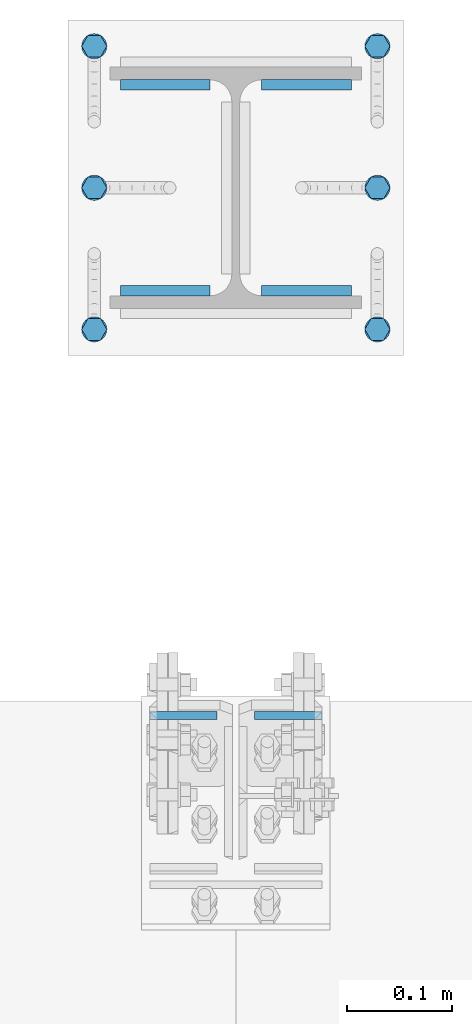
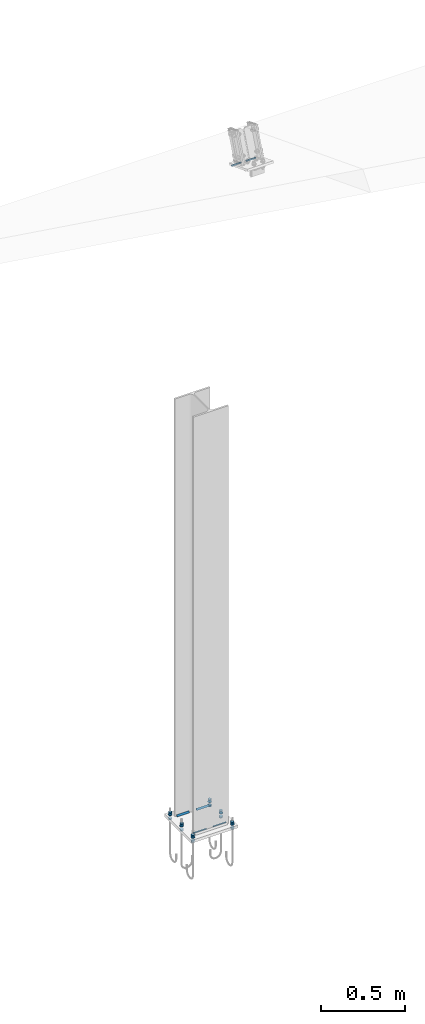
# One storey, part 66 of 72: 30 mechanical fasteners, 12 fasteners.
"""IFC4 building model written with IfcOpenShell, lengths in metres."""

from ifc_helpers import new_model, si_unit, frame, origin_with_axes, place, context, project, spatial, polyline, outline, extrude, type_object, element, save


model = new_model("IFC4")

# Units and contexts
model_context = context("Model", 3, precision=1e-05, world=origin_with_axes())
ifc_project = project(units=[si_unit("LENGTHUNIT", "METRE"), si_unit("AREAUNIT", "SQUARE_METRE"), si_unit("VOLUMEUNIT", "CUBIC_METRE"), si_unit("MASSUNIT", "GRAM", prefix="KILO"), si_unit("TIMEUNIT", "SECOND"), si_unit("PLANEANGLEUNIT", "RADIAN"), si_unit("SOLIDANGLEUNIT", "STERADIAN"), si_unit("THERMODYNAMICTEMPERATUREUNIT", "DEGREE_CELSIUS")], contexts=[model_context])

# Site, building, storey
placement_1 = place(None, origin_with_axes())
site = spatial("IfcSite", under=ifc_project, at=placement_1, Name="Italia", CompositionType="ELEMENT")
building = spatial("IfcBuilding", under=site, at=placement_1, Name="Uffici", CompositionType="ELEMENT")
storey = spatial("IfcBuildingStorey", under=building, at=placement_1, Name="Storey 0", CompositionType="ELEMENT", Elevation=0.0)

# Fasteners
fastener_type_1 = type_object("IfcFastenerType", Name="Collegamenti 0001_0101 0002_0102 0003_0103 0004_0104 0005_0105 0011_0111 0012_0112 0013_0113 0014_0114 0015_0115", PredefinedType="WELD")
placement_2 = place(placement_1, origin_with_axes())
fastener_1_placement = place(placement_2, origin_with_axes())
element("IfcFastener", 1, at=fastener_1_placement, inside=storey, type_object=fastener_type_1, Name="Collegamenti 0001_0101 0002_0102 0003_0103 0004_0104 0005_0105 0011_0111 0012_0112 0013_0113 0014_0114 0015_0115", context=model_context, shape_type="SweptSolid", body=[
    extrude(outline(polyline([(0.0, 0.0), (0.00986814, 0.0101734), (0.00986814, 0.0), (0.0, 0.0)])), frame((9.4797, 5.48318, 0.01995), z_axis=(1.0, 0.0, 0.0), x_axis=(0.0, 1.0, 0.0)), (0.0, 0.0, 1.0), 0.08535),
])
fastener_type_2 = type_object("IfcFastenerType", Name="Collegamenti 0001_0101 0002_0102 0003_0103 0004_0104 0005_0105 0011_0111 0012_0112 0013_0113 0014_0114 0015_0115", PredefinedType="WELD")
fastener_2_placement = place(placement_2, origin_with_axes())
element("IfcFastener", 2, at=fastener_2_placement, inside=storey, type_object=fastener_type_2, Name="Collegamenti 0001_0101 0002_0102 0003_0103 0004_0104 0005_0105 0011_0111 0012_0112 0013_0113 0014_0114 0015_0115", context=model_context, shape_type="SweptSolid", body=[
    extrude(outline(polyline([(0.0, 0.0), (0.00986814, 0.0101734), (0.00986814, 0.0), (0.0, 0.0)])), frame((9.56505, 5.29682, 0.01995), z_axis=(-1.0, 0.0, 0.0), x_axis=(0.0, -1.0, 0.0)), (0.0, 0.0, 1.0), 0.08535),
])
fastener_type_3 = type_object("IfcFastenerType", Name="Collegamenti 0001_0101 0002_0102 0003_0103 0004_0104 0005_0105 0011_0111 0012_0112 0013_0113 0014_0114 0015_0115", PredefinedType="WELD")
fastener_3_placement = place(placement_2, origin_with_axes())
element("IfcFastener", 3, at=fastener_3_placement, inside=storey, type_object=fastener_type_3, Name="Collegamenti 0001_0101 0002_0102 0003_0103 0004_0104 0005_0105 0011_0111 0012_0112 0013_0113 0014_0114 0015_0115", context=model_context, shape_type="SweptSolid", body=[
    extrude(outline(polyline([(0.0, 0.0), (0.00986814, 0.0101734), (0.00986814, 0.0), (0.0, 0.0)])), frame((9.4303, 5.29682, 0.01995), z_axis=(-1.0, 0.0, 0.0), x_axis=(0.0, -1.0, 0.0)), (0.0, 0.0, 1.0), 0.08535),
])
fastener_type_4 = type_object("IfcFastenerType", Name="Collegamenti 0001_0101 0002_0102 0003_0103 0004_0104 0005_0105 0011_0111 0012_0112 0013_0113 0014_0114 0015_0115", PredefinedType="WELD")
fastener_4_placement = place(placement_2, origin_with_axes())
element("IfcFastener", 4, at=fastener_4_placement, inside=storey, type_object=fastener_type_4, Name="Collegamenti 0001_0101 0002_0102 0003_0103 0004_0104 0005_0105 0011_0111 0012_0112 0013_0113 0014_0114 0015_0115", context=model_context, shape_type="SweptSolid", body=[
    extrude(outline(polyline([(0.0, 0.0), (0.00986814, 0.0101734), (0.00986814, 0.0), (0.0, 0.0)])), frame((9.34495, 5.48318, 0.01995), z_axis=(1.0, 0.0, 0.0), x_axis=(0.0, 1.0, 0.0)), (0.0, 0.0, 1.0), 0.08535),
])
fastener_type_5 = type_object("IfcFastenerType", Name="Collegamenti 0001_0101 0002_0102 0003_0103 0004_0104 0005_0105 0011_0111 0012_0112 0013_0113 0014_0114 0015_0115", PredefinedType="WELD")
fastener_5_placement = place(placement_2, origin_with_axes())
element("IfcFastener", 5, at=fastener_5_placement, inside=storey, type_object=fastener_type_5, Name="Collegamenti 0001_0101 0002_0102 0003_0103 0004_0104 0005_0105 0011_0111 0012_0112 0013_0113 0014_0114 0015_0115", context=model_context, shape_type="SweptSolid", body=[
    extrude(outline(polyline([(0.0, 0.0), (0.00986814, 0.0101734), (0.00986814, 0.0), (0.0, 0.0)])), frame((9.4797, 5.48318, 0.01995), z_axis=(1.0, 0.0, 0.0), x_axis=(0.0, 1.0, 0.0)), (0.0, 0.0, 1.0), 0.08535),
])
fastener_type_6 = type_object("IfcFastenerType", Name="Collegamenti 0001_0101 0002_0102 0003_0103 0004_0104 0005_0105 0011_0111 0012_0112 0013_0113 0014_0114 0015_0115", PredefinedType="WELD")
fastener_6_placement = place(placement_2, origin_with_axes())
element("IfcFastener", 6, at=fastener_6_placement, inside=storey, type_object=fastener_type_6, Name="Collegamenti 0001_0101 0002_0102 0003_0103 0004_0104 0005_0105 0011_0111 0012_0112 0013_0113 0014_0114 0015_0115", context=model_context, shape_type="SweptSolid", body=[
    extrude(outline(polyline([(0.0, 0.0), (0.00986814, 0.0101734), (0.00986814, 0.0), (0.0, 0.0)])), frame((9.56505, 5.29682, 0.01995), z_axis=(-1.0, 0.0, 0.0), x_axis=(0.0, -1.0, 0.0)), (0.0, 0.0, 1.0), 0.08535),
])
fastener_type_7 = type_object("IfcFastenerType", Name="Collegamenti 0001_0101 0002_0102 0003_0103 0004_0104 0005_0105 0011_0111 0012_0112 0013_0113 0014_0114 0015_0115", PredefinedType="WELD")
fastener_7_placement = place(placement_2, origin_with_axes())
element("IfcFastener", 7, at=fastener_7_placement, inside=storey, type_object=fastener_type_7, Name="Collegamenti 0001_0101 0002_0102 0003_0103 0004_0104 0005_0105 0011_0111 0012_0112 0013_0113 0014_0114 0015_0115", context=model_context, shape_type="SweptSolid", body=[
    extrude(outline(polyline([(0.0, 0.0), (0.00986814, 0.0101734), (0.00986814, 0.0), (0.0, 0.0)])), frame((9.4303, 5.29682, 0.01995), z_axis=(-1.0, 0.0, 0.0), x_axis=(0.0, -1.0, 0.0)), (0.0, 0.0, 1.0), 0.08535),
])
fastener_type_8 = type_object("IfcFastenerType", Name="Collegamenti 0001_0101 0002_0102 0003_0103 0004_0104 0005_0105 0011_0111 0012_0112 0013_0113 0014_0114 0015_0115", PredefinedType="WELD")
fastener_8_placement = place(placement_2, origin_with_axes())
element("IfcFastener", 8, at=fastener_8_placement, inside=storey, type_object=fastener_type_8, Name="Collegamenti 0001_0101 0002_0102 0003_0103 0004_0104 0005_0105 0011_0111 0012_0112 0013_0113 0014_0114 0015_0115", context=model_context, shape_type="SweptSolid", body=[
    extrude(outline(polyline([(0.0, 0.0), (0.00986814, 0.0101734), (0.00986814, 0.0), (0.0, 0.0)])), frame((9.34495, 5.48318, 0.01995), z_axis=(1.0, 0.0, 0.0), x_axis=(0.0, 1.0, 0.0)), (0.0, 0.0, 1.0), 0.08535),
])

# Mechanical fasteners
mechanical_fastener_type_1 = type_object("IfcMechanicalFastenerType", Name="Collegamenti 0001_0101 0002_0102 0003_0103 0004_0104 0005_0105 0011_0111 0012_0112 0013_0113 0014_0114 0015_0115", PredefinedType="BOLT")
mechanical_fastener_1_placement = place(placement_2, origin_with_axes())
element("IfcMechanicalFastener", 9, at=mechanical_fastener_1_placement, inside=storey, type_object=mechanical_fastener_type_1, Name="Collegamenti 0001_0101 0002_0102 0003_0103 0004_0104 0005_0105 0011_0111 0012_0112 0013_0113 0014_0114 0015_0115", NominalDiameter=0.0119997, context=model_context, shape_type="SweptSolid", body=[
    extrude(outline(polyline([(0.0, 0.0), (0.0, 0.0120001), (0.0103922, 0.0180006), (0.0207849, 0.0120001), (0.0207849, 0.0), (0.0103922, -0.00599957), (0.0, 0.0)])), frame((9.326, 5.24461, 0.022), z_axis=(0.0, 0.0, 1.0), x_axis=(0.0, 1.0, 0.0)), (0.0, 0.0, 1.0), 0.0096),
])
mechanical_fastener_type_2 = type_object("IfcMechanicalFastenerType", Name="Collegamenti 0001_0101 0002_0102 0003_0103 0004_0104 0005_0105 0011_0111 0012_0112 0013_0113 0014_0114 0015_0115", PredefinedType="BOLT")
mechanical_fastener_2_placement = place(placement_2, origin_with_axes())
element("IfcMechanicalFastener", 10, at=mechanical_fastener_2_placement, inside=storey, type_object=mechanical_fastener_type_2, Name="Collegamenti 0001_0101 0002_0102 0003_0103 0004_0104 0005_0105 0011_0111 0012_0112 0013_0113 0014_0114 0015_0115", NominalDiameter=0.0119997, context=model_context, shape_type="SweptSolid", body=[
    extrude(outline(polyline([(0.0, 0.0), (0.0, 0.0120001), (0.0103922, 0.0180006), (0.0207849, 0.0120001), (0.0207849, 0.0), (0.0103922, -0.00599957), (0.0, 0.0)])), frame((9.326, 5.24461, 0.0316), z_axis=(0.0, 0.0, 1.0), x_axis=(0.0, 1.0, 0.0)), (0.0, 0.0, 1.0), 0.0096),
])
mechanical_fastener_type_3 = type_object("IfcMechanicalFastenerType", Name="Collegamenti 0001_0101 0002_0102 0003_0103 0004_0104 0005_0105 0011_0111 0012_0112 0013_0113 0014_0114 0015_0115", PredefinedType="BOLT")
mechanical_fastener_3_placement = place(placement_2, origin_with_axes())
element("IfcMechanicalFastener", 11, at=mechanical_fastener_3_placement, inside=storey, type_object=mechanical_fastener_type_3, Name="Collegamenti 0001_0101 0002_0102 0003_0103 0004_0104 0005_0105 0011_0111 0012_0112 0013_0113 0014_0114 0015_0115", NominalDiameter=0.0119997, context=model_context, shape_type="SweptSolid", body=[
    extrude(outline(polyline([(0.0, 0.0), (0.0, 0.0120001), (0.0103922, 0.0180006), (0.0207849, 0.0120001), (0.0207849, 0.0), (0.0103922, -0.00599957), (0.0, 0.0)])), frame((9.326, 5.24461, -0.0116), z_axis=(0.0, 0.0, 1.0), x_axis=(0.0, 1.0, 0.0)), (0.0, 0.0, 1.0), 0.0096),
])
mechanical_fastener_type_4 = type_object("IfcMechanicalFastenerType", Name="Collegamenti 0001_0101 0002_0102 0003_0103 0004_0104 0005_0105 0011_0111 0012_0112 0013_0113 0014_0114 0015_0115", PredefinedType="BOLT")
mechanical_fastener_4_placement = place(placement_2, origin_with_axes())
element("IfcMechanicalFastener", 12, at=mechanical_fastener_4_placement, inside=storey, type_object=mechanical_fastener_type_4, Name="Collegamenti 0001_0101 0002_0102 0003_0103 0004_0104 0005_0105 0011_0111 0012_0112 0013_0113 0014_0114 0015_0115", NominalDiameter=0.024, context=model_context, shape_type="SweptSolid", body=[
    extrude(outline(polyline([(0.0, 0.0), (-0.000409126, -0.00310612), (-0.00160789, -0.00599957), (-0.00351477, -0.00848484), (-0.00600004, -0.0103922), (-0.00889444, -0.011591), (-0.0120001, -0.0120001), (-0.0151057, -0.011591), (-0.0180001, -0.0103922), (-0.0204854, -0.00848484), (-0.0223923, -0.00599957), (-0.023591, -0.00310612), (-0.0240002, 0.0), (-0.023591, 0.00310612), (-0.0223923, 0.00599957), (-0.0204854, 0.00848484), (-0.0180001, 0.0103922), (-0.0151057, 0.011591), (-0.0120001, 0.0120001), (-0.00889444, 0.011591), (-0.00600004, 0.0103922), (-0.00351477, 0.00848484), (-0.00160789, 0.00599957), (-0.000409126, 0.00310612), (0.0, 0.0)])), frame((9.32, 5.267, 0.02), z_axis=(0.0, 0.0, 1.0), x_axis=(0.0, 1.0, 0.0)), (0.0, 0.0, 1.0), 0.002),
])
mechanical_fastener_type_5 = type_object("IfcMechanicalFastenerType", Name="Collegamenti 0001_0101 0002_0102 0003_0103 0004_0104 0005_0105 0011_0111 0012_0112 0013_0113 0014_0114 0015_0115", PredefinedType="BOLT")
mechanical_fastener_5_placement = place(placement_2, origin_with_axes())
element("IfcMechanicalFastener", 13, at=mechanical_fastener_5_placement, inside=storey, type_object=mechanical_fastener_type_5, Name="Collegamenti 0001_0101 0002_0102 0003_0103 0004_0104 0005_0105 0011_0111 0012_0112 0013_0113 0014_0114 0015_0115", NominalDiameter=0.024, context=model_context, shape_type="SweptSolid", body=[
    extrude(outline(polyline([(0.0, 0.0), (-0.000409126, -0.00310612), (-0.00160789, -0.00599957), (-0.00351477, -0.00848484), (-0.00600004, -0.0103922), (-0.00889444, -0.011591), (-0.0120001, -0.0120001), (-0.0151057, -0.011591), (-0.0180001, -0.0103922), (-0.0204854, -0.00848484), (-0.0223923, -0.00599957), (-0.023591, -0.00310612), (-0.0240002, 0.0), (-0.023591, 0.00310612), (-0.0223923, 0.00599957), (-0.0204854, 0.00848484), (-0.0180001, 0.0103922), (-0.0151057, 0.011591), (-0.0120001, 0.0120001), (-0.00889444, 0.011591), (-0.00600004, 0.0103922), (-0.00351477, 0.00848484), (-0.00160789, 0.00599957), (-0.000409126, 0.00310612), (0.0, 0.0)])), frame((9.32, 5.267, -0.002), z_axis=(0.0, 0.0, 1.0), x_axis=(0.0, 1.0, 0.0)), (0.0, 0.0, 1.0), 0.002),
])
mechanical_fastener_type_6 = type_object("IfcMechanicalFastenerType", Name="Collegamenti 0001_0101 0002_0102 0003_0103 0004_0104 0005_0105 0011_0111 0012_0112 0013_0113 0014_0114 0015_0115", PredefinedType="BOLT")
mechanical_fastener_6_placement = place(placement_2, origin_with_axes())
element("IfcMechanicalFastener", 14, at=mechanical_fastener_6_placement, inside=storey, type_object=mechanical_fastener_type_6, Name="Collegamenti 0001_0101 0002_0102 0003_0103 0004_0104 0005_0105 0011_0111 0012_0112 0013_0113 0014_0114 0015_0115", NominalDiameter=0.0119997, context=model_context, shape_type="SweptSolid", body=[
    extrude(outline(polyline([(0.0, 0.0), (0.0, 0.0120001), (0.0103922, 0.0179996), (0.0207849, 0.0120001), (0.0207849, 0.0), (0.0103922, -0.00600052), (0.0, 0.0)])), frame((9.596, 5.24461, 0.022), z_axis=(0.0, 0.0, 1.0), x_axis=(0.0, 1.0, 0.0)), (0.0, 0.0, 1.0), 0.0096),
])
mechanical_fastener_type_7 = type_object("IfcMechanicalFastenerType", Name="Collegamenti 0001_0101 0002_0102 0003_0103 0004_0104 0005_0105 0011_0111 0012_0112 0013_0113 0014_0114 0015_0115", PredefinedType="BOLT")
mechanical_fastener_7_placement = place(placement_2, origin_with_axes())
element("IfcMechanicalFastener", 15, at=mechanical_fastener_7_placement, inside=storey, type_object=mechanical_fastener_type_7, Name="Collegamenti 0001_0101 0002_0102 0003_0103 0004_0104 0005_0105 0011_0111 0012_0112 0013_0113 0014_0114 0015_0115", NominalDiameter=0.0119997, context=model_context, shape_type="SweptSolid", body=[
    extrude(outline(polyline([(0.0, 0.0), (0.0, 0.0120001), (0.0103922, 0.0179996), (0.0207849, 0.0120001), (0.0207849, 0.0), (0.0103922, -0.00600052), (0.0, 0.0)])), frame((9.596, 5.24461, 0.0316), z_axis=(0.0, 0.0, 1.0), x_axis=(0.0, 1.0, 0.0)), (0.0, 0.0, 1.0), 0.0096),
])
mechanical_fastener_type_8 = type_object("IfcMechanicalFastenerType", Name="Collegamenti 0001_0101 0002_0102 0003_0103 0004_0104 0005_0105 0011_0111 0012_0112 0013_0113 0014_0114 0015_0115", PredefinedType="BOLT")
mechanical_fastener_8_placement = place(placement_2, origin_with_axes())
element("IfcMechanicalFastener", 16, at=mechanical_fastener_8_placement, inside=storey, type_object=mechanical_fastener_type_8, Name="Collegamenti 0001_0101 0002_0102 0003_0103 0004_0104 0005_0105 0011_0111 0012_0112 0013_0113 0014_0114 0015_0115", NominalDiameter=0.0119997, context=model_context, shape_type="SweptSolid", body=[
    extrude(outline(polyline([(0.0, 0.0), (0.0, 0.0120001), (0.0103922, 0.0179996), (0.0207849, 0.0120001), (0.0207849, 0.0), (0.0103922, -0.00600052), (0.0, 0.0)])), frame((9.596, 5.24461, -0.0116), z_axis=(0.0, 0.0, 1.0), x_axis=(0.0, 1.0, 0.0)), (0.0, 0.0, 1.0), 0.0096),
])
mechanical_fastener_type_9 = type_object("IfcMechanicalFastenerType", Name="Collegamenti 0001_0101 0002_0102 0003_0103 0004_0104 0005_0105 0011_0111 0012_0112 0013_0113 0014_0114 0015_0115", PredefinedType="BOLT")
mechanical_fastener_9_placement = place(placement_2, origin_with_axes())
element("IfcMechanicalFastener", 17, at=mechanical_fastener_9_placement, inside=storey, type_object=mechanical_fastener_type_9, Name="Collegamenti 0001_0101 0002_0102 0003_0103 0004_0104 0005_0105 0011_0111 0012_0112 0013_0113 0014_0114 0015_0115", NominalDiameter=0.024, context=model_context, shape_type="SweptSolid", body=[
    extrude(outline(polyline([(0.0, 0.0), (-0.000409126, -0.00310612), (-0.00160789, -0.00599957), (-0.00351477, -0.00848484), (-0.00600004, -0.0103922), (-0.00889444, -0.011591), (-0.0120001, -0.0120001), (-0.0151057, -0.011591), (-0.0180001, -0.0103922), (-0.0204854, -0.00848484), (-0.0223923, -0.00599957), (-0.023591, -0.00310612), (-0.0240002, 0.0), (-0.023591, 0.00310612), (-0.0223923, 0.00599957), (-0.0204854, 0.00848484), (-0.0180001, 0.0103922), (-0.0151057, 0.011591), (-0.0120001, 0.0120001), (-0.00889444, 0.011591), (-0.00600004, 0.0103922), (-0.00351477, 0.00848484), (-0.00160789, 0.00599957), (-0.000409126, 0.00310612), (0.0, 0.0)])), frame((9.59, 5.267, 0.02), z_axis=(0.0, 0.0, 1.0), x_axis=(0.0, 1.0, 0.0)), (0.0, 0.0, 1.0), 0.002),
])
mechanical_fastener_type_10 = type_object("IfcMechanicalFastenerType", Name="Collegamenti 0001_0101 0002_0102 0003_0103 0004_0104 0005_0105 0011_0111 0012_0112 0013_0113 0014_0114 0015_0115", PredefinedType="BOLT")
mechanical_fastener_10_placement = place(placement_2, origin_with_axes())
element("IfcMechanicalFastener", 18, at=mechanical_fastener_10_placement, inside=storey, type_object=mechanical_fastener_type_10, Name="Collegamenti 0001_0101 0002_0102 0003_0103 0004_0104 0005_0105 0011_0111 0012_0112 0013_0113 0014_0114 0015_0115", NominalDiameter=0.024, context=model_context, shape_type="SweptSolid", body=[
    extrude(outline(polyline([(0.0, 0.0), (-0.000409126, -0.00310612), (-0.00160789, -0.00599957), (-0.00351477, -0.00848484), (-0.00600004, -0.0103922), (-0.00889444, -0.011591), (-0.0120001, -0.0120001), (-0.0151057, -0.011591), (-0.0180001, -0.0103922), (-0.0204854, -0.00848484), (-0.0223923, -0.00599957), (-0.023591, -0.00310612), (-0.0240002, 0.0), (-0.023591, 0.00310612), (-0.0223923, 0.00599957), (-0.0204854, 0.00848484), (-0.0180001, 0.0103922), (-0.0151057, 0.011591), (-0.0120001, 0.0120001), (-0.00889444, 0.011591), (-0.00600004, 0.0103922), (-0.00351477, 0.00848484), (-0.00160789, 0.00599957), (-0.000409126, 0.00310612), (0.0, 0.0)])), frame((9.59, 5.267, -0.002), z_axis=(0.0, 0.0, 1.0), x_axis=(0.0, 1.0, 0.0)), (0.0, 0.0, 1.0), 0.002),
])
mechanical_fastener_type_11 = type_object("IfcMechanicalFastenerType", Name="Collegamenti 0001_0101 0002_0102 0003_0103 0004_0104 0005_0105 0011_0111 0012_0112 0013_0113 0014_0114 0015_0115", PredefinedType="BOLT")
mechanical_fastener_11_placement = place(placement_2, origin_with_axes())
element("IfcMechanicalFastener", 19, at=mechanical_fastener_11_placement, inside=storey, type_object=mechanical_fastener_type_11, Name="Collegamenti 0001_0101 0002_0102 0003_0103 0004_0104 0005_0105 0011_0111 0012_0112 0013_0113 0014_0114 0015_0115", NominalDiameter=0.0119997, context=model_context, shape_type="SweptSolid", body=[
    extrude(outline(polyline([(0.0, 0.0), (0.0, 0.0120001), (0.0103922, 0.0180006), (0.0207844, 0.0120001), (0.0207844, 0.0), (0.0103922, -0.00599957), (0.0, 0.0)])), frame((9.326, 5.37961, 0.022), z_axis=(0.0, 0.0, 1.0), x_axis=(0.0, 1.0, 0.0)), (0.0, 0.0, 1.0), 0.0096),
])
mechanical_fastener_type_12 = type_object("IfcMechanicalFastenerType", Name="Collegamenti 0001_0101 0002_0102 0003_0103 0004_0104 0005_0105 0011_0111 0012_0112 0013_0113 0014_0114 0015_0115", PredefinedType="BOLT")
mechanical_fastener_12_placement = place(placement_2, origin_with_axes())
element("IfcMechanicalFastener", 20, at=mechanical_fastener_12_placement, inside=storey, type_object=mechanical_fastener_type_12, Name="Collegamenti 0001_0101 0002_0102 0003_0103 0004_0104 0005_0105 0011_0111 0012_0112 0013_0113 0014_0114 0015_0115", NominalDiameter=0.0119997, context=model_context, shape_type="SweptSolid", body=[
    extrude(outline(polyline([(0.0, 0.0), (0.0, 0.0120001), (0.0103922, 0.0180006), (0.0207844, 0.0120001), (0.0207844, 0.0), (0.0103922, -0.00599957), (0.0, 0.0)])), frame((9.326, 5.37961, 0.0316), z_axis=(0.0, 0.0, 1.0), x_axis=(0.0, 1.0, 0.0)), (0.0, 0.0, 1.0), 0.0096),
])
mechanical_fastener_type_13 = type_object("IfcMechanicalFastenerType", Name="Collegamenti 0001_0101 0002_0102 0003_0103 0004_0104 0005_0105 0011_0111 0012_0112 0013_0113 0014_0114 0015_0115", PredefinedType="BOLT")
mechanical_fastener_13_placement = place(placement_2, origin_with_axes())
element("IfcMechanicalFastener", 21, at=mechanical_fastener_13_placement, inside=storey, type_object=mechanical_fastener_type_13, Name="Collegamenti 0001_0101 0002_0102 0003_0103 0004_0104 0005_0105 0011_0111 0012_0112 0013_0113 0014_0114 0015_0115", NominalDiameter=0.0119997, context=model_context, shape_type="SweptSolid", body=[
    extrude(outline(polyline([(0.0, 0.0), (0.0, 0.0120001), (0.0103922, 0.0180006), (0.0207844, 0.0120001), (0.0207844, 0.0), (0.0103922, -0.00599957), (0.0, 0.0)])), frame((9.326, 5.37961, -0.0116), z_axis=(0.0, 0.0, 1.0), x_axis=(0.0, 1.0, 0.0)), (0.0, 0.0, 1.0), 0.0096),
])
mechanical_fastener_type_14 = type_object("IfcMechanicalFastenerType", Name="Collegamenti 0001_0101 0002_0102 0003_0103 0004_0104 0005_0105 0011_0111 0012_0112 0013_0113 0014_0114 0015_0115", PredefinedType="BOLT")
mechanical_fastener_14_placement = place(placement_2, origin_with_axes())
element("IfcMechanicalFastener", 22, at=mechanical_fastener_14_placement, inside=storey, type_object=mechanical_fastener_type_14, Name="Collegamenti 0001_0101 0002_0102 0003_0103 0004_0104 0005_0105 0011_0111 0012_0112 0013_0113 0014_0114 0015_0115", NominalDiameter=0.024, context=model_context, shape_type="SweptSolid", body=[
    extrude(outline(polyline([(0.0, 0.0), (-0.000409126, -0.00310612), (-0.00160789, -0.00599957), (-0.00351477, -0.00848484), (-0.00600004, -0.0103922), (-0.00889444, -0.011591), (-0.0120001, -0.0120001), (-0.0151057, -0.011591), (-0.0180001, -0.0103922), (-0.0204854, -0.00848484), (-0.0223923, -0.00599957), (-0.023591, -0.00310612), (-0.0240002, 0.0), (-0.023591, 0.00310612), (-0.0223923, 0.00599957), (-0.0204854, 0.00848484), (-0.0180001, 0.0103922), (-0.0151057, 0.011591), (-0.0120001, 0.0120001), (-0.00889444, 0.011591), (-0.00600004, 0.0103922), (-0.00351477, 0.00848484), (-0.00160789, 0.00599957), (-0.000409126, 0.00310612), (0.0, 0.0)])), frame((9.32, 5.402, 0.02), z_axis=(0.0, 0.0, 1.0), x_axis=(0.0, 1.0, 0.0)), (0.0, 0.0, 1.0), 0.002),
])
mechanical_fastener_type_15 = type_object("IfcMechanicalFastenerType", Name="Collegamenti 0001_0101 0002_0102 0003_0103 0004_0104 0005_0105 0011_0111 0012_0112 0013_0113 0014_0114 0015_0115", PredefinedType="BOLT")
mechanical_fastener_15_placement = place(placement_2, origin_with_axes())
element("IfcMechanicalFastener", 23, at=mechanical_fastener_15_placement, inside=storey, type_object=mechanical_fastener_type_15, Name="Collegamenti 0001_0101 0002_0102 0003_0103 0004_0104 0005_0105 0011_0111 0012_0112 0013_0113 0014_0114 0015_0115", NominalDiameter=0.024, context=model_context, shape_type="SweptSolid", body=[
    extrude(outline(polyline([(0.0, 0.0), (-0.000409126, -0.00310612), (-0.00160789, -0.00599957), (-0.00351477, -0.00848484), (-0.00600004, -0.0103922), (-0.00889444, -0.011591), (-0.0120001, -0.0120001), (-0.0151057, -0.011591), (-0.0180001, -0.0103922), (-0.0204854, -0.00848484), (-0.0223923, -0.00599957), (-0.023591, -0.00310612), (-0.0240002, 0.0), (-0.023591, 0.00310612), (-0.0223923, 0.00599957), (-0.0204854, 0.00848484), (-0.0180001, 0.0103922), (-0.0151057, 0.011591), (-0.0120001, 0.0120001), (-0.00889444, 0.011591), (-0.00600004, 0.0103922), (-0.00351477, 0.00848484), (-0.00160789, 0.00599957), (-0.000409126, 0.00310612), (0.0, 0.0)])), frame((9.32, 5.402, -0.002), z_axis=(0.0, 0.0, 1.0), x_axis=(0.0, 1.0, 0.0)), (0.0, 0.0, 1.0), 0.002),
])
mechanical_fastener_type_16 = type_object("IfcMechanicalFastenerType", Name="Collegamenti 0001_0101 0002_0102 0003_0103 0004_0104 0005_0105 0011_0111 0012_0112 0013_0113 0014_0114 0015_0115", PredefinedType="BOLT")
mechanical_fastener_16_placement = place(placement_2, origin_with_axes())
element("IfcMechanicalFastener", 24, at=mechanical_fastener_16_placement, inside=storey, type_object=mechanical_fastener_type_16, Name="Collegamenti 0001_0101 0002_0102 0003_0103 0004_0104 0005_0105 0011_0111 0012_0112 0013_0113 0014_0114 0015_0115", NominalDiameter=0.0119997, context=model_context, shape_type="SweptSolid", body=[
    extrude(outline(polyline([(0.0, 0.0), (0.0, 0.0120001), (0.0103922, 0.0179996), (0.0207844, 0.0120001), (0.0207844, 0.0), (0.0103922, -0.00600052), (0.0, 0.0)])), frame((9.596, 5.37961, 0.022), z_axis=(0.0, 0.0, 1.0), x_axis=(0.0, 1.0, 0.0)), (0.0, 0.0, 1.0), 0.0096),
])
mechanical_fastener_type_17 = type_object("IfcMechanicalFastenerType", Name="Collegamenti 0001_0101 0002_0102 0003_0103 0004_0104 0005_0105 0011_0111 0012_0112 0013_0113 0014_0114 0015_0115", PredefinedType="BOLT")
mechanical_fastener_17_placement = place(placement_2, origin_with_axes())
element("IfcMechanicalFastener", 25, at=mechanical_fastener_17_placement, inside=storey, type_object=mechanical_fastener_type_17, Name="Collegamenti 0001_0101 0002_0102 0003_0103 0004_0104 0005_0105 0011_0111 0012_0112 0013_0113 0014_0114 0015_0115", NominalDiameter=0.0119997, context=model_context, shape_type="SweptSolid", body=[
    extrude(outline(polyline([(0.0, 0.0), (0.0, 0.0120001), (0.0103922, 0.0179996), (0.0207844, 0.0120001), (0.0207844, 0.0), (0.0103922, -0.00600052), (0.0, 0.0)])), frame((9.596, 5.37961, 0.0316), z_axis=(0.0, 0.0, 1.0), x_axis=(0.0, 1.0, 0.0)), (0.0, 0.0, 1.0), 0.0096),
])
mechanical_fastener_type_18 = type_object("IfcMechanicalFastenerType", Name="Collegamenti 0001_0101 0002_0102 0003_0103 0004_0104 0005_0105 0011_0111 0012_0112 0013_0113 0014_0114 0015_0115", PredefinedType="BOLT")
mechanical_fastener_18_placement = place(placement_2, origin_with_axes())
element("IfcMechanicalFastener", 26, at=mechanical_fastener_18_placement, inside=storey, type_object=mechanical_fastener_type_18, Name="Collegamenti 0001_0101 0002_0102 0003_0103 0004_0104 0005_0105 0011_0111 0012_0112 0013_0113 0014_0114 0015_0115", NominalDiameter=0.0119997, context=model_context, shape_type="SweptSolid", body=[
    extrude(outline(polyline([(0.0, 0.0), (0.0, 0.0120001), (0.0103922, 0.0179996), (0.0207844, 0.0120001), (0.0207844, 0.0), (0.0103922, -0.00600052), (0.0, 0.0)])), frame((9.596, 5.37961, -0.0116), z_axis=(0.0, 0.0, 1.0), x_axis=(0.0, 1.0, 0.0)), (0.0, 0.0, 1.0), 0.0096),
])
mechanical_fastener_type_19 = type_object("IfcMechanicalFastenerType", Name="Collegamenti 0001_0101 0002_0102 0003_0103 0004_0104 0005_0105 0011_0111 0012_0112 0013_0113 0014_0114 0015_0115", PredefinedType="BOLT")
mechanical_fastener_19_placement = place(placement_2, origin_with_axes())
element("IfcMechanicalFastener", 27, at=mechanical_fastener_19_placement, inside=storey, type_object=mechanical_fastener_type_19, Name="Collegamenti 0001_0101 0002_0102 0003_0103 0004_0104 0005_0105 0011_0111 0012_0112 0013_0113 0014_0114 0015_0115", NominalDiameter=0.024, context=model_context, shape_type="SweptSolid", body=[
    extrude(outline(polyline([(0.0, 0.0), (-0.000409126, -0.00310612), (-0.00160789, -0.00599957), (-0.00351477, -0.00848484), (-0.00600004, -0.0103922), (-0.00889444, -0.011591), (-0.0120001, -0.0120001), (-0.0151057, -0.011591), (-0.0180001, -0.0103922), (-0.0204854, -0.00848484), (-0.0223923, -0.00599957), (-0.023591, -0.00310612), (-0.0240002, 0.0), (-0.023591, 0.00310612), (-0.0223923, 0.00599957), (-0.0204854, 0.00848484), (-0.0180001, 0.0103922), (-0.0151057, 0.011591), (-0.0120001, 0.0120001), (-0.00889444, 0.011591), (-0.00600004, 0.0103922), (-0.00351477, 0.00848484), (-0.00160789, 0.00599957), (-0.000409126, 0.00310612), (0.0, 0.0)])), frame((9.59, 5.402, 0.02), z_axis=(0.0, 0.0, 1.0), x_axis=(0.0, 1.0, 0.0)), (0.0, 0.0, 1.0), 0.002),
])
mechanical_fastener_type_20 = type_object("IfcMechanicalFastenerType", Name="Collegamenti 0001_0101 0002_0102 0003_0103 0004_0104 0005_0105 0011_0111 0012_0112 0013_0113 0014_0114 0015_0115", PredefinedType="BOLT")
mechanical_fastener_20_placement = place(placement_2, origin_with_axes())
element("IfcMechanicalFastener", 28, at=mechanical_fastener_20_placement, inside=storey, type_object=mechanical_fastener_type_20, Name="Collegamenti 0001_0101 0002_0102 0003_0103 0004_0104 0005_0105 0011_0111 0012_0112 0013_0113 0014_0114 0015_0115", NominalDiameter=0.024, context=model_context, shape_type="SweptSolid", body=[
    extrude(outline(polyline([(0.0, 0.0), (-0.000409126, -0.00310612), (-0.00160789, -0.00599957), (-0.00351477, -0.00848484), (-0.00600004, -0.0103922), (-0.00889444, -0.011591), (-0.0120001, -0.0120001), (-0.0151057, -0.011591), (-0.0180001, -0.0103922), (-0.0204854, -0.00848484), (-0.0223923, -0.00599957), (-0.023591, -0.00310612), (-0.0240002, 0.0), (-0.023591, 0.00310612), (-0.0223923, 0.00599957), (-0.0204854, 0.00848484), (-0.0180001, 0.0103922), (-0.0151057, 0.011591), (-0.0120001, 0.0120001), (-0.00889444, 0.011591), (-0.00600004, 0.0103922), (-0.00351477, 0.00848484), (-0.00160789, 0.00599957), (-0.000409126, 0.00310612), (0.0, 0.0)])), frame((9.59, 5.402, -0.002), z_axis=(0.0, 0.0, 1.0), x_axis=(0.0, 1.0, 0.0)), (0.0, 0.0, 1.0), 0.002),
])
mechanical_fastener_type_21 = type_object("IfcMechanicalFastenerType", Name="Collegamenti 0001_0101 0002_0102 0003_0103 0004_0104 0005_0105 0011_0111 0012_0112 0013_0113 0014_0114 0015_0115", PredefinedType="BOLT")
mechanical_fastener_21_placement = place(placement_2, origin_with_axes())
element("IfcMechanicalFastener", 29, at=mechanical_fastener_21_placement, inside=storey, type_object=mechanical_fastener_type_21, Name="Collegamenti 0001_0101 0002_0102 0003_0103 0004_0104 0005_0105 0011_0111 0012_0112 0013_0113 0014_0114 0015_0115", NominalDiameter=0.0119997, context=model_context, shape_type="SweptSolid", body=[
    extrude(outline(polyline([(0.0, 0.0), (0.0, 0.0120001), (0.0103927, 0.0180006), (0.0207849, 0.0120001), (0.0207849, 0.0), (0.0103927, -0.00599957), (0.0, 0.0)])), frame((9.326, 5.51461, 0.022), z_axis=(0.0, 0.0, 1.0), x_axis=(0.0, 1.0, 0.0)), (0.0, 0.0, 1.0), 0.0096),
])
mechanical_fastener_type_22 = type_object("IfcMechanicalFastenerType", Name="Collegamenti 0001_0101 0002_0102 0003_0103 0004_0104 0005_0105 0011_0111 0012_0112 0013_0113 0014_0114 0015_0115", PredefinedType="BOLT")
mechanical_fastener_22_placement = place(placement_2, origin_with_axes())
element("IfcMechanicalFastener", 30, at=mechanical_fastener_22_placement, inside=storey, type_object=mechanical_fastener_type_22, Name="Collegamenti 0001_0101 0002_0102 0003_0103 0004_0104 0005_0105 0011_0111 0012_0112 0013_0113 0014_0114 0015_0115", NominalDiameter=0.0119997, context=model_context, shape_type="SweptSolid", body=[
    extrude(outline(polyline([(0.0, 0.0), (0.0, 0.0120001), (0.0103927, 0.0180006), (0.0207849, 0.0120001), (0.0207849, 0.0), (0.0103927, -0.00599957), (0.0, 0.0)])), frame((9.326, 5.51461, 0.0316), z_axis=(0.0, 0.0, 1.0), x_axis=(0.0, 1.0, 0.0)), (0.0, 0.0, 1.0), 0.0096),
])
mechanical_fastener_type_23 = type_object("IfcMechanicalFastenerType", Name="Collegamenti 0001_0101 0002_0102 0003_0103 0004_0104 0005_0105 0011_0111 0012_0112 0013_0113 0014_0114 0015_0115", PredefinedType="BOLT")
mechanical_fastener_23_placement = place(placement_2, origin_with_axes())
element("IfcMechanicalFastener", 31, at=mechanical_fastener_23_placement, inside=storey, type_object=mechanical_fastener_type_23, Name="Collegamenti 0001_0101 0002_0102 0003_0103 0004_0104 0005_0105 0011_0111 0012_0112 0013_0113 0014_0114 0015_0115", NominalDiameter=0.0119997, context=model_context, shape_type="SweptSolid", body=[
    extrude(outline(polyline([(0.0, 0.0), (0.0, 0.0120001), (0.0103927, 0.0180006), (0.0207849, 0.0120001), (0.0207849, 0.0), (0.0103927, -0.00599957), (0.0, 0.0)])), frame((9.326, 5.51461, -0.0116), z_axis=(0.0, 0.0, 1.0), x_axis=(0.0, 1.0, 0.0)), (0.0, 0.0, 1.0), 0.0096),
])
mechanical_fastener_type_24 = type_object("IfcMechanicalFastenerType", Name="Collegamenti 0001_0101 0002_0102 0003_0103 0004_0104 0005_0105 0011_0111 0012_0112 0013_0113 0014_0114 0015_0115", PredefinedType="BOLT")
mechanical_fastener_24_placement = place(placement_2, origin_with_axes())
element("IfcMechanicalFastener", 32, at=mechanical_fastener_24_placement, inside=storey, type_object=mechanical_fastener_type_24, Name="Collegamenti 0001_0101 0002_0102 0003_0103 0004_0104 0005_0105 0011_0111 0012_0112 0013_0113 0014_0114 0015_0115", NominalDiameter=0.024, context=model_context, shape_type="SweptSolid", body=[
    extrude(outline(polyline([(0.0, 0.0), (-0.000409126, -0.00310612), (-0.00160789, -0.00599957), (-0.00351477, -0.00848484), (-0.00600004, -0.0103922), (-0.00889444, -0.011591), (-0.0120001, -0.0120001), (-0.0151057, -0.011591), (-0.0180001, -0.0103922), (-0.0204854, -0.00848484), (-0.0223923, -0.00599957), (-0.023591, -0.00310612), (-0.0240002, 0.0), (-0.023591, 0.00310612), (-0.0223923, 0.00599957), (-0.0204854, 0.00848484), (-0.0180001, 0.0103922), (-0.0151057, 0.011591), (-0.0120001, 0.0120001), (-0.00889444, 0.011591), (-0.00600004, 0.0103922), (-0.00351477, 0.00848484), (-0.00160789, 0.00599957), (-0.000409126, 0.00310612), (0.0, 0.0)])), frame((9.32, 5.537, 0.02), z_axis=(0.0, 0.0, 1.0), x_axis=(0.0, 1.0, 0.0)), (0.0, 0.0, 1.0), 0.002),
])
mechanical_fastener_type_25 = type_object("IfcMechanicalFastenerType", Name="Collegamenti 0001_0101 0002_0102 0003_0103 0004_0104 0005_0105 0011_0111 0012_0112 0013_0113 0014_0114 0015_0115", PredefinedType="BOLT")
mechanical_fastener_25_placement = place(placement_2, origin_with_axes())
element("IfcMechanicalFastener", 33, at=mechanical_fastener_25_placement, inside=storey, type_object=mechanical_fastener_type_25, Name="Collegamenti 0001_0101 0002_0102 0003_0103 0004_0104 0005_0105 0011_0111 0012_0112 0013_0113 0014_0114 0015_0115", NominalDiameter=0.024, context=model_context, shape_type="SweptSolid", body=[
    extrude(outline(polyline([(0.0, 0.0), (-0.000409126, -0.00310612), (-0.00160789, -0.00599957), (-0.00351477, -0.00848484), (-0.00600004, -0.0103922), (-0.00889444, -0.011591), (-0.0120001, -0.0120001), (-0.0151057, -0.011591), (-0.0180001, -0.0103922), (-0.0204854, -0.00848484), (-0.0223923, -0.00599957), (-0.023591, -0.00310612), (-0.0240002, 0.0), (-0.023591, 0.00310612), (-0.0223923, 0.00599957), (-0.0204854, 0.00848484), (-0.0180001, 0.0103922), (-0.0151057, 0.011591), (-0.0120001, 0.0120001), (-0.00889444, 0.011591), (-0.00600004, 0.0103922), (-0.00351477, 0.00848484), (-0.00160789, 0.00599957), (-0.000409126, 0.00310612), (0.0, 0.0)])), frame((9.32, 5.537, -0.002), z_axis=(0.0, 0.0, 1.0), x_axis=(0.0, 1.0, 0.0)), (0.0, 0.0, 1.0), 0.002),
])
mechanical_fastener_type_26 = type_object("IfcMechanicalFastenerType", Name="Collegamenti 0001_0101 0002_0102 0003_0103 0004_0104 0005_0105 0011_0111 0012_0112 0013_0113 0014_0114 0015_0115", PredefinedType="BOLT")
mechanical_fastener_26_placement = place(placement_2, origin_with_axes())
element("IfcMechanicalFastener", 34, at=mechanical_fastener_26_placement, inside=storey, type_object=mechanical_fastener_type_26, Name="Collegamenti 0001_0101 0002_0102 0003_0103 0004_0104 0005_0105 0011_0111 0012_0112 0013_0113 0014_0114 0015_0115", NominalDiameter=0.0119997, context=model_context, shape_type="SweptSolid", body=[
    extrude(outline(polyline([(0.0, 0.0), (0.0, 0.0120001), (0.0103927, 0.0179996), (0.0207849, 0.0120001), (0.0207849, 0.0), (0.0103927, -0.00600052), (0.0, 0.0)])), frame((9.596, 5.51461, 0.022), z_axis=(0.0, 0.0, 1.0), x_axis=(0.0, 1.0, 0.0)), (0.0, 0.0, 1.0), 0.0096),
])
mechanical_fastener_type_27 = type_object("IfcMechanicalFastenerType", Name="Collegamenti 0001_0101 0002_0102 0003_0103 0004_0104 0005_0105 0011_0111 0012_0112 0013_0113 0014_0114 0015_0115", PredefinedType="BOLT")
mechanical_fastener_27_placement = place(placement_2, origin_with_axes())
element("IfcMechanicalFastener", 35, at=mechanical_fastener_27_placement, inside=storey, type_object=mechanical_fastener_type_27, Name="Collegamenti 0001_0101 0002_0102 0003_0103 0004_0104 0005_0105 0011_0111 0012_0112 0013_0113 0014_0114 0015_0115", NominalDiameter=0.0119997, context=model_context, shape_type="SweptSolid", body=[
    extrude(outline(polyline([(0.0, 0.0), (0.0, 0.0120001), (0.0103927, 0.0179996), (0.0207849, 0.0120001), (0.0207849, 0.0), (0.0103927, -0.00600052), (0.0, 0.0)])), frame((9.596, 5.51461, 0.0316), z_axis=(0.0, 0.0, 1.0), x_axis=(0.0, 1.0, 0.0)), (0.0, 0.0, 1.0), 0.0096),
])
mechanical_fastener_type_28 = type_object("IfcMechanicalFastenerType", Name="Collegamenti 0001_0101 0002_0102 0003_0103 0004_0104 0005_0105 0011_0111 0012_0112 0013_0113 0014_0114 0015_0115", PredefinedType="BOLT")
mechanical_fastener_28_placement = place(placement_2, origin_with_axes())
element("IfcMechanicalFastener", 36, at=mechanical_fastener_28_placement, inside=storey, type_object=mechanical_fastener_type_28, Name="Collegamenti 0001_0101 0002_0102 0003_0103 0004_0104 0005_0105 0011_0111 0012_0112 0013_0113 0014_0114 0015_0115", NominalDiameter=0.0119997, context=model_context, shape_type="SweptSolid", body=[
    extrude(outline(polyline([(0.0, 0.0), (0.0, 0.0120001), (0.0103927, 0.0179996), (0.0207849, 0.0120001), (0.0207849, 0.0), (0.0103927, -0.00600052), (0.0, 0.0)])), frame((9.596, 5.51461, -0.0116), z_axis=(0.0, 0.0, 1.0), x_axis=(0.0, 1.0, 0.0)), (0.0, 0.0, 1.0), 0.0096),
])
mechanical_fastener_type_29 = type_object("IfcMechanicalFastenerType", Name="Collegamenti 0001_0101 0002_0102 0003_0103 0004_0104 0005_0105 0011_0111 0012_0112 0013_0113 0014_0114 0015_0115", PredefinedType="BOLT")
mechanical_fastener_29_placement = place(placement_2, origin_with_axes())
element("IfcMechanicalFastener", 37, at=mechanical_fastener_29_placement, inside=storey, type_object=mechanical_fastener_type_29, Name="Collegamenti 0001_0101 0002_0102 0003_0103 0004_0104 0005_0105 0011_0111 0012_0112 0013_0113 0014_0114 0015_0115", NominalDiameter=0.024, context=model_context, shape_type="SweptSolid", body=[
    extrude(outline(polyline([(0.0, 0.0), (-0.000409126, -0.00310612), (-0.00160789, -0.00599957), (-0.00351477, -0.00848484), (-0.00600004, -0.0103922), (-0.00889444, -0.011591), (-0.0120001, -0.0120001), (-0.0151057, -0.011591), (-0.0180001, -0.0103922), (-0.0204854, -0.00848484), (-0.0223923, -0.00599957), (-0.023591, -0.00310612), (-0.0240002, 0.0), (-0.023591, 0.00310612), (-0.0223923, 0.00599957), (-0.0204854, 0.00848484), (-0.0180001, 0.0103922), (-0.0151057, 0.011591), (-0.0120001, 0.0120001), (-0.00889444, 0.011591), (-0.00600004, 0.0103922), (-0.00351477, 0.00848484), (-0.00160789, 0.00599957), (-0.000409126, 0.00310612), (0.0, 0.0)])), frame((9.59, 5.537, 0.02), z_axis=(0.0, 0.0, 1.0), x_axis=(0.0, 1.0, 0.0)), (0.0, 0.0, 1.0), 0.002),
])
mechanical_fastener_type_30 = type_object("IfcMechanicalFastenerType", Name="Collegamenti 0001_0101 0002_0102 0003_0103 0004_0104 0005_0105 0011_0111 0012_0112 0013_0113 0014_0114 0015_0115", PredefinedType="BOLT")
mechanical_fastener_30_placement = place(placement_2, origin_with_axes())
element("IfcMechanicalFastener", 38, at=mechanical_fastener_30_placement, inside=storey, type_object=mechanical_fastener_type_30, Name="Collegamenti 0001_0101 0002_0102 0003_0103 0004_0104 0005_0105 0011_0111 0012_0112 0013_0113 0014_0114 0015_0115", NominalDiameter=0.024, context=model_context, shape_type="SweptSolid", body=[
    extrude(outline(polyline([(0.0, 0.0), (-0.000409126, -0.00310612), (-0.00160789, -0.00599957), (-0.00351477, -0.00848484), (-0.00600004, -0.0103922), (-0.00889444, -0.011591), (-0.0120001, -0.0120001), (-0.0151057, -0.011591), (-0.0180001, -0.0103922), (-0.0204854, -0.00848484), (-0.0223923, -0.00599957), (-0.023591, -0.00310612), (-0.0240002, 0.0), (-0.023591, 0.00310612), (-0.0223923, 0.00599957), (-0.0204854, 0.00848484), (-0.0180001, 0.0103922), (-0.0151057, 0.011591), (-0.0120001, 0.0120001), (-0.00889444, 0.011591), (-0.00600004, 0.0103922), (-0.00351477, 0.00848484), (-0.00160789, 0.00599957), (-0.000409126, 0.00310612), (0.0, 0.0)])), frame((9.59, 5.537, -0.002), z_axis=(0.0, 0.0, 1.0), x_axis=(0.0, 1.0, 0.0)), (0.0, 0.0, 1.0), 0.002),
])

# Fasteners
fastener_type_9 = type_object("IfcFastenerType", Name="Collegamento 0209_0109", PredefinedType="WELD")
fastener_9_placement = place(placement_2, origin_with_axes())
element("IfcFastener", 39, at=fastener_9_placement, inside=storey, type_object=fastener_type_9, Name="Collegamento 0209_0109", context=model_context, shape_type="SweptSolid", body=[
    extrude(outline(polyline([(0.0, 0.0), (-0.00443697, -0.0104866), (-0.00739193, -0.00286627), (0.0, 0.0)])), frame((9.53705, 4.88317, 5.09453), z_axis=(-1.0, 0.0, 0.0), x_axis=(0.0, -1.0, 0.0)), (0.0, 0.0, 1.0), 0.0641003),
])
fastener_type_10 = type_object("IfcFastenerType", Name="Collegamento 0209_0109", PredefinedType="WELD")
fastener_10_placement = place(placement_2, origin_with_axes())
element("IfcFastener", 40, at=fastener_10_placement, inside=storey, type_object=fastener_type_10, Name="Collegamento 0209_0109", context=model_context, shape_type="SweptSolid", body=[
    extrude(outline(polyline([(0.0, 0.0), (-0.00443697, -0.0104866), (-0.00739193, -0.00286627), (0.0, 0.0)])), frame((9.43705, 4.88317, 5.09453), z_axis=(-1.0, 0.0, 0.0), x_axis=(0.0, -1.0, 0.0)), (0.0, 0.0, 1.0), 0.0641003),
])
fastener_type_11 = type_object("IfcFastenerType", Name="Collegamento 0209_0109", PredefinedType="WELD")
fastener_11_placement = place(placement_2, origin_with_axes())
element("IfcFastener", 41, at=fastener_11_placement, inside=storey, type_object=fastener_type_11, Name="Collegamento 0209_0109", context=model_context, shape_type="SweptSolid", body=[
    extrude(outline(polyline([(0.0, 0.0), (-0.00443697, -0.0104866), (-0.00739193, -0.00286627), (0.0, 0.0)])), frame((9.53705, 4.88317, 5.09453), z_axis=(-1.0, 0.0, 0.0), x_axis=(0.0, -1.0, 0.0)), (0.0, 0.0, 1.0), 0.0641003),
])
fastener_type_12 = type_object("IfcFastenerType", Name="Collegamento 0209_0109", PredefinedType="WELD")
fastener_12_placement = place(placement_2, origin_with_axes())
element("IfcFastener", 42, at=fastener_12_placement, inside=storey, type_object=fastener_type_12, Name="Collegamento 0209_0109", context=model_context, shape_type="SweptSolid", body=[
    extrude(outline(polyline([(0.0, 0.0), (-0.00443697, -0.0104866), (-0.00739193, -0.00286627), (0.0, 0.0)])), frame((9.43705, 4.88317, 5.09453), z_axis=(-1.0, 0.0, 0.0), x_axis=(0.0, -1.0, 0.0)), (0.0, 0.0, 1.0), 0.0641003),
])

save(model, "model.ifc")
